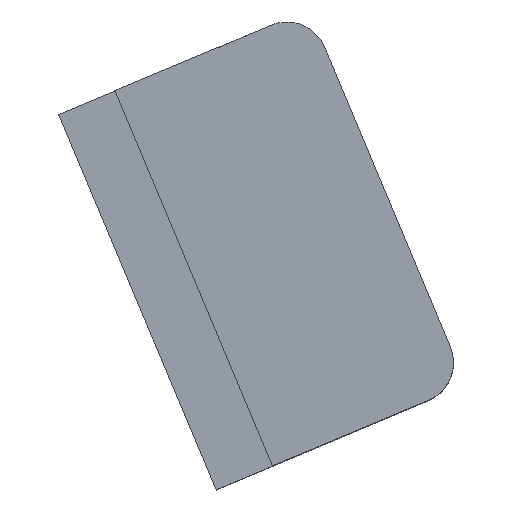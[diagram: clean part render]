
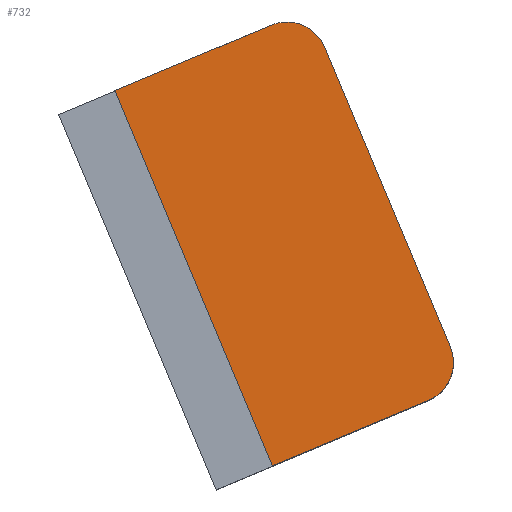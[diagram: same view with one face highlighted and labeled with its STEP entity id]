
A CAD part, top view. The second image highlights one B-rep face of the part: STEP entity #732.
In plain terms, the highlighted planar face has unit normal (0, 0, 1).
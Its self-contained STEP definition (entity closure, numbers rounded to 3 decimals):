
#591=AXIS2_PLACEMENT_3D('Circle Axis2P3D',#589,#590,$) ;
#702=AXIS2_PLACEMENT_3D('Plane Axis2P3D',#699,#700,#701) ;
#546=CARTESIAN_POINT('Vertex',(173.618,56.621,27.)) ;
#549=CARTESIAN_POINT('Line Origine',(167.811,70.452,27.)) ;
#553=CARTESIAN_POINT('Vertex',(162.005,84.282,27.)) ;
#586=CARTESIAN_POINT('Vertex',(186.748,65.387,27.)) ;
#589=CARTESIAN_POINT('Axis2P3D Location',(183.982,64.226,27.)) ;
#593=CARTESIAN_POINT('Vertex',(185.143,61.46,27.)) ;
#682=CARTESIAN_POINT('Vertex',(177.458,87.516,27.)) ;
#685=CARTESIAN_POINT('Line Origine',(182.103,76.452,27.)) ;
#699=CARTESIAN_POINT('Axis2P3D Location',(171.499,72.,27.)) ;
#704=CARTESIAN_POINT('Line Origine',(169.15,87.282,27.)) ;
#708=CARTESIAN_POINT('Vertex',(173.53,89.121,27.)) ;
#711=CARTESIAN_POINT('Line Origine',(180.763,59.621,27.)) ;
#717=CARTESIAN_POINT('Control Point',(177.458,87.516,27.)) ;
#718=CARTESIAN_POINT('Control Point',(177.093,88.385,27.)) ;
#719=CARTESIAN_POINT('Control Point',(176.387,89.112,27.)) ;
#720=CARTESIAN_POINT('Control Point',(175.412,89.511,27.)) ;
#721=CARTESIAN_POINT('Control Point',(174.399,89.486,27.)) ;
#722=CARTESIAN_POINT('Control Point',(173.53,89.121,27.)) ;
#550=DIRECTION('Vector Direction',(-0.387,0.922,0.)) ;
#590=DIRECTION('Axis2P3D Direction',(0.,0.,1.)) ;
#686=DIRECTION('Vector Direction',(0.387,-0.922,0.)) ;
#700=DIRECTION('Axis2P3D Direction',(-0.,0.,1.)) ;
#701=DIRECTION('Axis2P3D XDirection',(0.387,-0.922,0.)) ;
#705=DIRECTION('Vector Direction',(0.922,0.387,0.)) ;
#712=DIRECTION('Vector Direction',(0.922,0.387,0.)) ;
#551=VECTOR('Line Direction',#550,1.) ;
#687=VECTOR('Line Direction',#686,1.) ;
#706=VECTOR('Line Direction',#705,1.) ;
#713=VECTOR('Line Direction',#712,1.) ;
#725=ORIENTED_EDGE('',*,*,#710,.F.) ;
#726=ORIENTED_EDGE('',*,*,#555,.F.) ;
#727=ORIENTED_EDGE('',*,*,#715,.T.) ;
#728=ORIENTED_EDGE('',*,*,#595,.F.) ;
#729=ORIENTED_EDGE('',*,*,#689,.F.) ;
#730=ORIENTED_EDGE('',*,*,#723,.F.) ;
#732=ADVANCED_FACE('\X2\5757\X0\1',(#731),#703,.T.) ;
#716=B_SPLINE_CURVE_WITH_KNOTS('',5,(#717,#718,#719,#720,#721,#722),.UNSPECIFIED.,.F.,.U.,(6,6),(4.712,9.425),.UNSPECIFIED.) ;
#592=CIRCLE('generated circle',#591,3.) ;
#555=EDGE_CURVE('',#547,#554,#552,.T.) ;
#595=EDGE_CURVE('',#587,#594,#592,.F.) ;
#689=EDGE_CURVE('',#683,#587,#688,.T.) ;
#710=EDGE_CURVE('',#554,#709,#707,.T.) ;
#715=EDGE_CURVE('',#547,#594,#714,.T.) ;
#723=EDGE_CURVE('',#709,#683,#716,.F.) ;
#724=EDGE_LOOP('',(#725,#726,#727,#728,#729,#730)) ;
#731=FACE_OUTER_BOUND('',#724,.T.) ;
#552=LINE('Line',#549,#551) ;
#688=LINE('Line',#685,#687) ;
#707=LINE('Line',#704,#706) ;
#714=LINE('Line',#711,#713) ;
#703=PLANE('Plane',#702) ;
#547=VERTEX_POINT('',#546) ;
#554=VERTEX_POINT('',#553) ;
#587=VERTEX_POINT('',#586) ;
#594=VERTEX_POINT('',#593) ;
#683=VERTEX_POINT('',#682) ;
#709=VERTEX_POINT('',#708) ;
